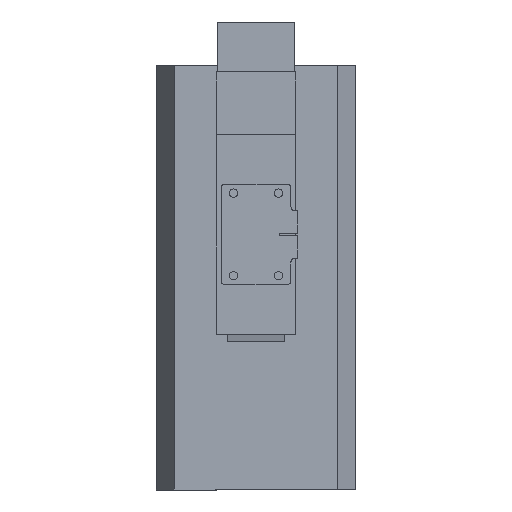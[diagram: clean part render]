
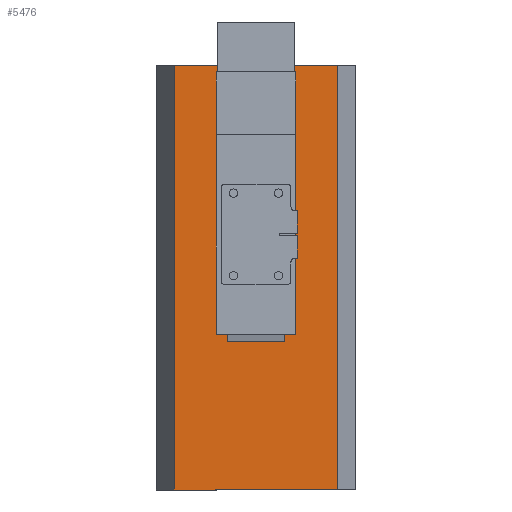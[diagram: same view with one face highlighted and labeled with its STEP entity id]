
A CAD part, front view. The second image highlights one B-rep face of the part: STEP entity #5476.
In plain terms, the highlighted planar face has unit normal (0, -1, 0).
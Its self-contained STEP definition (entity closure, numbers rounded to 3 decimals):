
#637=FACE_OUTER_BOUND('',#962,.T.);
#962=EDGE_LOOP('',(#4928,#4929,#4930,#4931));
#1540=LINE('',#9510,#2144);
#1555=LINE('',#9539,#2159);
#1556=LINE('',#9542,#2160);
#1557=LINE('',#9543,#2161);
#2144=VECTOR('',#7398,10.);
#2159=VECTOR('',#7423,10.);
#2160=VECTOR('',#7426,10.);
#2161=VECTOR('',#7427,10.);
#2656=VERTEX_POINT('',#9507);
#2657=VERTEX_POINT('',#9509);
#2666=VERTEX_POINT('',#9537);
#2667=VERTEX_POINT('',#9541);
#3409=EDGE_CURVE('',#2656,#2657,#1540,.T.);
#3424=EDGE_CURVE('',#2666,#2656,#1555,.T.);
#3425=EDGE_CURVE('',#2667,#2666,#1556,.T.);
#3426=EDGE_CURVE('',#2657,#2667,#1557,.T.);
#4928=ORIENTED_EDGE('',*,*,#3424,.F.);
#4929=ORIENTED_EDGE('',*,*,#3425,.F.);
#4930=ORIENTED_EDGE('',*,*,#3426,.F.);
#4931=ORIENTED_EDGE('',*,*,#3409,.F.);
#5186=PLANE('',#6005);
#5476=ADVANCED_FACE('',(#637),#5186,.T.);
#6005=AXIS2_PLACEMENT_3D('',#9540,#7424,#7425);
#7398=DIRECTION('',(-1.,0.,0.));
#7423=DIRECTION('',(0.,0.,-1.));
#7424=DIRECTION('center_axis',(0.,-1.,0.));
#7425=DIRECTION('ref_axis',(0.,0.,-1.));
#7426=DIRECTION('',(1.,0.,0.));
#7427=DIRECTION('',(0.,0.,1.));
#9507=CARTESIAN_POINT('',(65.5,-25.,-170.));
#9509=CARTESIAN_POINT('',(-65.5,-25.,-170.));
#9510=CARTESIAN_POINT('',(0.,-25.,-170.));
#9537=CARTESIAN_POINT('',(65.5,-25.,170.));
#9539=CARTESIAN_POINT('',(65.5,-25.,85.));
#9540=CARTESIAN_POINT('Origin',(0.,-25.,170.));
#9541=CARTESIAN_POINT('',(-65.5,-25.,170.));
#9542=CARTESIAN_POINT('',(0.,-25.,170.));
#9543=CARTESIAN_POINT('',(-65.5,-25.,85.));
